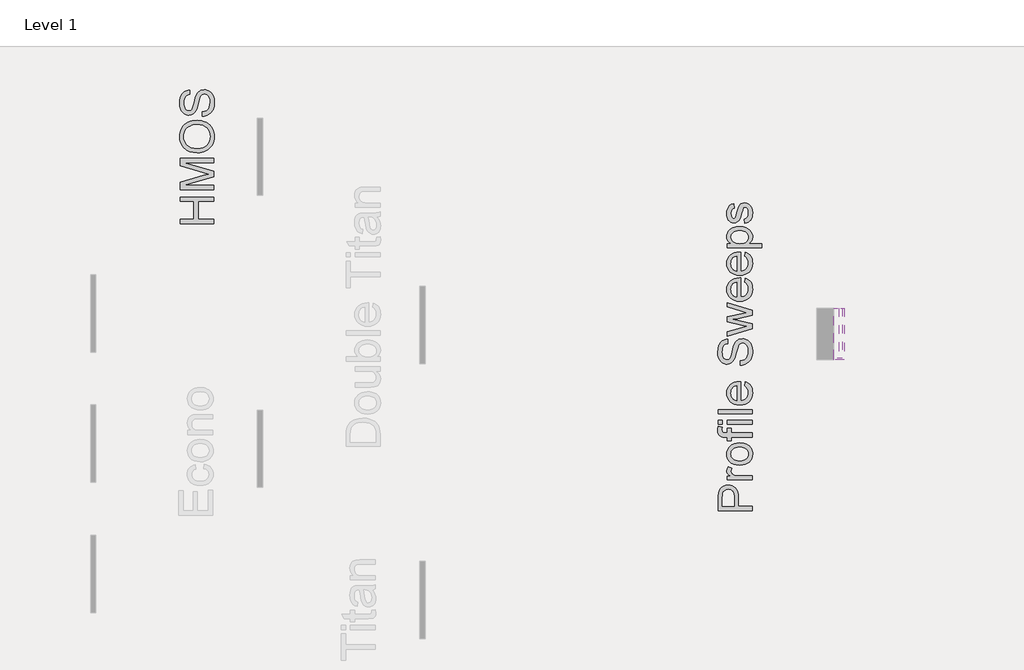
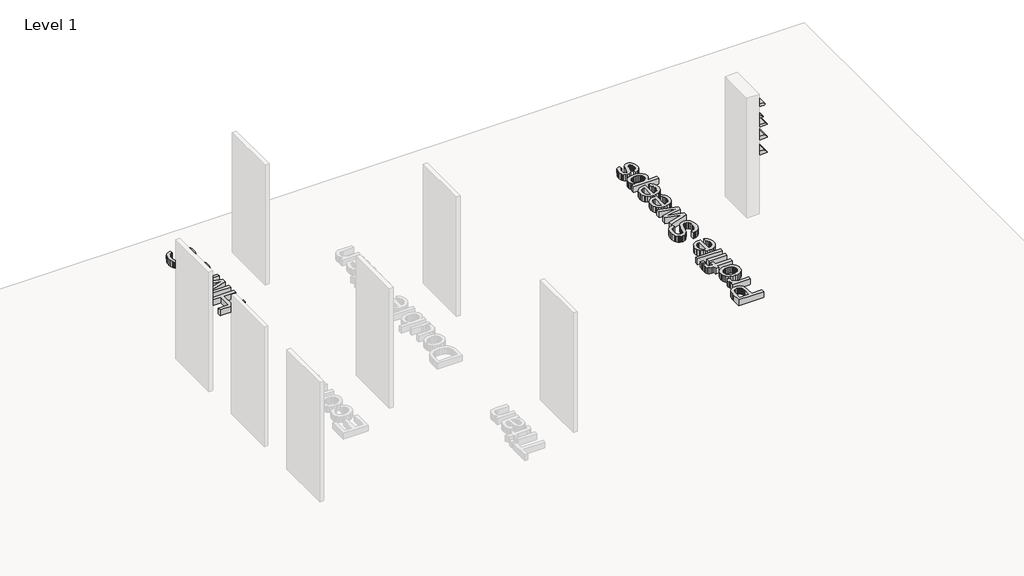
# One storey, part 6 of 6: 7 proxies.
"""IFC4 building model written with IfcOpenShell, lengths in millimetres."""

from ifc_helpers import new_model, si_unit, point, frame, frame_2d, origin, origin_with_axes, place, context, project, spatial, polyline, circle_curve, trimmed, segment, composite_curve, outline, extrude, element, save

model = new_model("IFC4")

# Units and contexts
model_context = context("Model", 3, world=origin())
ifc_project = project(units=[si_unit("LENGTHUNIT", "METRE", prefix="MILLI")], contexts=[model_context])

# Site, building, storey
site = spatial("IfcSite", under=ifc_project)
building = spatial("IfcBuilding", under=site)
storey = spatial("IfcBuildingStorey", under=building, Name="Level 1", Elevation=0.0)

# Proxies
placement = place(None, origin())
element("IfcBuildingElementProxy", 1, Name="Wall_Sweep_Sloped-Sill-Unit_SL2_Glen-Gery", ObjectType="Wall_Sweep_Sloped-Sill-Unit_SL2_Glen-Gery", at=placement, inside=storey, context=model_context, shape_type="SweptSolid", body=[
    extrude(outline(composite_curve([segment(polyline([(2711.45, 17140.5180269), (2711.45, 17269.1055269)]), True, "CONTINUOUS"), segment(trimmed(circle_curve(frame_2d((2738.4374742, 17269.0682279)), 26.9875), [point((2711.45, 17269.1055269))], [point((2764.6582211, 17275.4555269))], False, "CARTESIAN"), True, "CONTINUOUS"), segment(polyline([(2764.6582211, 17275.4555269), (2794.0, 17140.5180269), (2711.45, 17140.5180269)]), True, "CONTINUOUS")], self_intersect=False)), frame((0.0, 7093.3741026, 0.0), z_axis=(0.0, 1.0, 0.0), x_axis=(0.0, 0.0, 1.0)), (0.0, 0.0, 1.0), 889.0),
])
element("IfcBuildingElementProxy", 2, Name="Wall_Sweep_Water-Table-Unit_W2-S_Glen-Gery", ObjectType="Wall_Sweep_Water-Table-Unit_W2-S_Glen-Gery", at=placement, inside=storey, context=model_context, shape_type="SweptSolid", body=[
    extrude(outline(composite_curve([segment(polyline([(2495.55, 17140.5180269), (2438.4, 17140.5180269), (2438.4, 17232.5930269), (2457.45, 17232.5930269)]), True, "CONTINUOUS"), segment(trimmed(circle_curve(frame_2d((2495.55, 17232.5930269)), 38.1), [point((2457.45, 17232.5930269))], [point((2495.55, 17194.4930269))], True, "CARTESIAN"), True, "CONTINUOUS"), segment(polyline([(2495.55, 17194.4930269), (2495.55, 17140.5180269)]), True, "CONTINUOUS")], self_intersect=False)), frame((0.0, 7067.9741026, 0.0), z_axis=(0.0, 1.0, 0.0), x_axis=(0.0, 0.0, 1.0)), (0.0, 0.0, 1.0), 914.4),
])
element("IfcBuildingElementProxy", 3, Name="Wall_Sweep_Water-Table-Unit_W3-H_Glen-Gery", ObjectType="Wall_Sweep_Water-Table-Unit_W3-H_Glen-Gery", at=placement, inside=storey, context=model_context, shape_type="SweptSolid", body=[
    extrude(outline(polyline([(2266.95, 17140.5180269), (2209.8, 17140.5180269), (2209.8, 17334.1930269), (2228.85, 17334.1930269), (2266.95, 17296.0930269), (2266.95, 17140.5180269)])), frame((0.0, 7067.9741026, 0.0), z_axis=(0.0, 1.0, 0.0), x_axis=(0.0, 0.0, 1.0)), (0.0, 0.0, 1.0), 914.4),
])
element("IfcBuildingElementProxy", 4, Name="Wall_Sweep_Water-Table-Unit_W9-R_Glen-Gery", ObjectType="Wall_Sweep_Water-Table-Unit_W9-R_Glen-Gery", at=placement, inside=storey, context=model_context, shape_type="SweptSolid", body=[
    extrude(outline(polyline([(1971.675, 17140.5180269), (1879.6, 17140.5180269), (1879.6, 17334.1930269), (1911.35, 17334.1930269), (1971.675, 17273.8680269), (1971.675, 17140.5180269)])), frame((0.0, 7067.9741026, 0.0), z_axis=(0.0, 1.0, 0.0), x_axis=(0.0, 0.0, 1.0)), (0.0, 0.0, 1.0), 914.4),
])
element("IfcBuildingElementProxy", 5, Name="Wall_Sweep_Water-Table-Unit_W12-R_Glen-Gery", ObjectType="Wall_Sweep_Water-Table-Unit_W12-R_Glen-Gery", at=placement, inside=storey, context=model_context, shape_type="SweptSolid", body=[
    extrude(outline(composite_curve([segment(polyline([(1590.675, 17140.5180269), (1498.6, 17140.5180269), (1498.6, 17334.1930269), (1517.65, 17334.1930269), (1517.65, 17321.4930269)]), True, "CONTINUOUS"), segment(trimmed(circle_curve(frame_2d((1514.4750682, 17264.4312857)), 57.15), [point((1517.65, 17321.4930269))], [point((1571.625, 17264.3430269))], False, "CARTESIAN"), True, "CONTINUOUS"), segment(polyline([(1571.625, 17264.3430269), (1590.675, 17264.3430269), (1590.675, 17140.5180269)]), True, "CONTINUOUS")], self_intersect=False)), frame((0.0, 7067.9741026, 0.0), z_axis=(0.0, 1.0, 0.0), x_axis=(0.0, 0.0, 1.0)), (0.0, 0.0, 1.0), 914.4),
])
element("IfcBuildingElementProxy", 6, Name="24\" Arial", ObjectType="24\" Arial", at=placement, inside=storey, context=model_context, shape_type="SweptSolid", body=[
    extrude(outline(polyline([(6152.1293022, 9483.265812), (5551.9077637, 9483.265812), (5551.9077637, 9558.2935043), (5795.7477637, 9558.2935043), (5795.7477637, 9877.1611966), (5551.9077637, 9877.1611966), (5551.9077637, 9952.1888889), (6152.1293022, 9952.1888889), (6152.1293022, 9877.1611966), (5870.775456, 9877.1611966), (5870.775456, 9558.2935043), (6152.1293022, 9558.2935043), (6152.1293022, 9483.265812)])), origin_with_axes(), (0.0, 0.0, 1.0), 152.4),
    extrude(outline(polyline([(6152.1293022, 10083.4873504), (5551.9077637, 10083.4873504), (5551.9077637, 10212.587735), (5974.9643022, 10335.3869658), (6063.3269945, 10360.1519658), (5967.6373791, 10386.9685043), (5551.9077637, 10507.7161966), (5551.9077637, 10636.8165812), (6152.1293022, 10636.8165812), (6152.1293022, 10561.7888889), (5626.935456, 10561.7888889), (6152.1293022, 10411.000812), (6152.1293022, 10309.3031197), (5626.935456, 10158.5150427), (6152.1293022, 10158.5150427), (6152.1293022, 10083.4873504)])), origin_with_axes(), (0.0, 0.0, 1.0), 152.4),
    extrude(outline(polyline([(5859.9316099, 10739.9796581), (5789.5290378, 10744.9802831), (5727.2043984, 10759.9821581), (5672.9576916, 10784.9852831), (5648.863563, 10801.2373144), (5626.7889176, 10819.9896581), (5589.9253359, 10862.8979514), (5563.594206, 10911.6128312), (5547.7955282, 10966.1342975), (5542.5293022, 11026.4623504), (5545.0021387, 11066.8428552), (5552.4206484, 11105.1901389), (5564.784831, 11141.5042014), (5582.0946868, 11175.7850427), (5603.8281724, 11207.0710043), (5629.4632445, 11234.4004273), (5658.9999032, 11257.773312), (5692.4381484, 11277.1896581), (5729.0178118, 11292.4479754), (5767.9787253, 11303.3467735), (5809.3208887, 11309.8860523), (5853.0443022, 11312.065812), (5897.3447109, 11309.7715692), (5939.2455522, 11302.8888408), (5978.7468262, 11291.4176269), (6015.848533, 11275.3579273), (6049.5706964, 11255.0898264), (6078.9333407, 11230.9934081), (6103.9364657, 11203.0686725), (6124.5800714, 11171.3156197), (6140.7359368, 11136.9844057), (6152.2758407, 11101.325187), (6159.199783, 11064.3379634), (6161.5077637, 11026.022735), (6158.9570786, 10984.9370139), (6151.3050234, 10946.0860043), (6138.5515979, 10909.4697062), (6120.6968022, 10875.0881197), (6098.4321147, 10843.8387927), (6072.4490137, 10816.6192735), (6042.7474993, 10793.429562), (6009.3275714, 10774.2696581), (5973.5309729, 10759.2677831), (5936.6994464, 10748.5521581), (5898.8329921, 10742.1227831), (5859.9316099, 10739.9796581)]), holes=[polyline([(5860.6643022, 10815.0073504), (5910.4049512, 10818.7578192), (5954.5588214, 10830.0092254), (5993.1259128, 10848.7615692), (6026.1062253, 10875.0148504), (6052.519783, 10906.9281797), (6071.3866099, 10942.6606677), (6082.706706, 10982.2123144), (6086.4800714, 11025.5831197), (6082.6700714, 11069.6957759), (6071.2400714, 11109.7145139), (6052.1900714, 11145.6393336), (6025.5200714, 11177.470235), (5991.8437012, 11203.5311846), (5951.7745907, 11222.1461485), (5905.3127397, 11233.3151269), (5852.4581484, 11237.0381197), (5818.1223551, 11235.4445139), (5786.0395907, 11230.6636966), (5756.2098551, 11222.6956677), (5728.6331484, 11211.5404273), (5703.6712373, 11197.3216172), (5681.6858887, 11180.1628793), (5662.6771027, 11160.0642134), (5646.6448791, 11137.0256197), (5633.9189296, 11111.761473), (5624.8289657, 11084.9861485), (5619.3749873, 11056.6996461), (5617.5569945, 11026.9019658), (5621.0601796, 10985.0377591), (5631.5697349, 10946.1959081), (5649.0856604, 10910.3764129), (5673.607956, 10877.5792735), (5706.3180883, 10850.2040572), (5748.3975234, 10830.6503312), (5799.8462613, 10818.9180956), (5860.6643022, 10815.0073504)])]), origin_with_axes(), (0.0, 0.0, 1.0), 152.4),
    extrude(outline(polyline([(5945.8031484, 11387.0935043), (5945.8031484, 11462.1211966), (5987.4383887, 11470.7303312), (6020.9041099, 11486.3000427), (6047.464206, 11510.5887927), (6068.3825714, 11545.3550427), (6081.9556964, 11587.8511966), (6086.4800714, 11635.3296581), (6083.0547349, 11677.1297543), (6072.7787253, 11713.727735), (6056.512956, 11743.3834562), (6035.1183407, 11764.3567735), (6010.554831, 11776.83086), (5984.7823791, 11780.9888889), (5959.6693503, 11777.8749466), (5937.9633407, 11768.5331197), (5919.4445426, 11749.5563889), (5903.8931484, 11717.537735), (5875.2448791, 11608.293312), (5856.2864657, 11536.5810523), (5838.2439176, 11490.6961966), (5813.0026676, 11453.3472062), (5782.4127637, 11426.8786966), (5747.1336291, 11411.1074947), (5707.8246868, 11405.8504273), (5685.4821508, 11407.4760884), (5663.8814657, 11412.3530716), (5643.0226315, 11420.4813769), (5622.9056484, 11431.8610043), (5604.3502157, 11446.3637326), (5588.176033, 11463.8613408), (5574.3831003, 11484.3538288), (5562.9714176, 11507.8411966), (5547.639831, 11560.6316773), (5542.5293022, 11619.0638889), (5547.877956, 11682.3685043), (5563.9239176, 11737.7600427), (5575.8759609, 11761.9938408), (5590.3374753, 11783.260235), (5607.3084609, 11801.5592254), (5626.7889176, 11816.890812), (5648.2110089, 11829.1359322), (5671.0068984, 11838.1755235), (5695.1765859, 11844.009586), (5720.7200714, 11846.6381197), (5720.7200714, 11771.6104273), (5696.7793503, 11766.591485), (5675.9525714, 11757.835812), (5658.2397349, 11745.3434081), (5643.6408407, 11729.1142735), (5632.229158, 11708.8461725), (5624.077956, 11684.2368697), (5619.1872349, 11655.2863648), (5617.5569945, 11621.9946581), (5619.1689176, 11587.6405475), (5624.0046868, 11558.287062), (5632.0643022, 11533.9342014), (5643.3477637, 11514.5819658), (5656.9117301, 11499.8365331), (5671.8128599, 11489.3040812), (5688.0511532, 11482.98461), (5705.6266099, 11480.8781197), (5720.7475474, 11482.3709802), (5734.4580522, 11486.849562), (5746.7581243, 11494.3138648), (5757.6477637, 11504.7638889), (5767.960408, 11521.2128312), (5778.382956, 11547.1135043), (5799.5577637, 11627.2700427), (5819.6701676, 11709.9910043), (5837.2181484, 11760.0338889), (5864.4376676, 11802.8048023), (5880.4378359, 11819.3407519), (5898.0316099, 11832.6436966), (5917.1274032, 11842.8693336), (5937.6336291, 11850.17336), (5982.8773791, 11856.0165812), (6006.3464296, 11854.3359682), (6029.128581, 11849.2941293), (6051.2238335, 11840.8910644), (6072.6321868, 11829.1267735), (6092.524783, 11814.2073264), (6110.0727637, 11796.3387927), (6125.2761291, 11775.5211725), (6138.1348791, 11751.7544658), (6148.3605161, 11725.7301509), (6155.6645426, 11698.1397062), (6161.5077637, 11638.2604273), (6159.9324753, 11599.8810884), (6155.2066099, 11564.7530716), (6147.3301676, 11532.8763769), (6136.3031484, 11504.2510043), (6122.1072349, 11478.7029394), (6104.7241099, 11456.0581677), (6084.1537734, 11436.3166894), (6060.3962253, 11419.4785043), (6034.2207926, 11405.9145379), (6006.3968022, 11395.9957158), (5976.9242541, 11389.7220379), (5945.8031484, 11387.0935043)])), origin_with_axes(), (0.0, 0.0, 1.0), 152.4),
])
element("IfcBuildingElementProxy", 7, Name="24\" Arial", ObjectType="24\" Arial", at=placement, inside=storey, context=model_context, shape_type="SweptSolid", body=[
    extrude(outline(polyline([(15695.9291622, 4391.5727632), (15095.7076237, 4391.5727632), (15095.7076237, 4614.0181479), (15097.1363737, 4665.819494), (15101.4226237, 4703.6996863), (15112.1016141, 4743.686369), (15129.4847391, 4776.6025709), (15154.359643, 4803.1077152), (15187.5139699, 4823.8612248), (15226.6214218, 4837.269494), (15269.3557007, 4841.7389171), (15306.2009651, 4838.7211406), (15340.097143, 4829.6678113), (15371.0442343, 4814.5789291), (15399.0422391, 4793.454494), (15422.250268, 4764.4536166), (15438.8274314, 4725.7354075), (15448.7737295, 4677.2998666), (15452.0891622, 4619.146994), (15452.0891622, 4466.6004555), (15695.9291622, 4466.6004555), (15695.9291622, 4391.5727632)]), holes=[polyline([(15377.0614699, 4466.6004555), (15377.0614699, 4623.5431479), (15375.339643, 4659.628244), (15370.1741622, 4690.0716094), (15361.5650276, 4714.873244), (15349.5122391, 4734.0331479), (15334.3363497, 4748.3298065), (15316.3579122, 4758.5417055), (15295.5769266, 4764.668845), (15271.993393, 4766.7112248), (15238.2895468, 4761.8937729), (15209.8610853, 4747.4414171), (15188.4664699, 4725.1492536), (15175.8641622, 4696.8123786), (15172.0175276, 4667.8710325), (15170.735316, 4621.7846863), (15170.735316, 4466.6004555), (15377.0614699, 4466.6004555)])]), origin_with_axes(), (0.0, 0.0, 1.0), 152.4),
    extrude(outline(polyline([(15695.9291622, 4935.5235325), (15255.1414699, 4935.5235325), (15255.1414699, 5001.1727632), (15320.3510853, 5001.1727632), (15282.5441622, 5025.4248786), (15260.270316, 5047.771994), (15249.3898353, 5070.1923786), (15245.7630084, 5094.6643017), (15251.5512776, 5132.0316094), (15268.9160853, 5169.9850709), (15336.1772391, 5144.926994), (15324.6373353, 5118.5500709), (15320.7907007, 5092.1731479), (15324.4907968, 5069.7710805), (15335.5910853, 5049.7502632), (15353.2489699, 5033.5760805), (15376.6218545, 5022.7139171), (15418.5318545, 5013.5918979), (15464.2518545, 5010.5512248), (15695.9291622, 5010.5512248), (15695.9291622, 4935.5235325)])), origin_with_axes(), (0.0, 0.0, 1.0), 152.4),
    extrude(outline(polyline([(15475.535316, 5198.1204555), (15418.4494266, 5202.1777392), (15369.2582968, 5214.3495902), (15327.9619266, 5234.6360084), (15294.560316, 5263.036994), (15273.2114939, 5291.6303113), (15257.9623353, 5323.1910325), (15248.8128401, 5357.7191575), (15245.7630084, 5395.2146863), (15249.4768425, 5436.6072224), (15260.6183449, 5474.0340613), (15279.1875156, 5507.4952031), (15305.1843545, 5536.9906479), (15337.7296309, 5561.0641695), (15375.9441141, 5578.2595421), (15419.827804, 5588.5767656), (15469.3807007, 5592.0158402), (15509.5413978, 5590.4955036), (15545.1777199, 5585.934494), (15576.289667, 5578.3328113), (15602.8772391, 5567.6904555), (15625.8425636, 5554.1402272), (15646.087768, 5537.8149267), (15663.6128521, 5518.7145541), (15678.417816, 5496.8391094), (15690.1821069, 5473.0403474), (15698.5851718, 5448.1700229), (15703.6270108, 5422.2281358), (15705.3076237, 5395.2146863), (15701.6075276, 5353.2176791), (15690.5072391, 5315.4428113), (15672.0067584, 5281.8900829), (15646.1060853, 5252.559494), (15613.2448353, 5228.7424147), (15573.8626237, 5211.7302152), (15527.9594507, 5201.5228954), (15475.535316, 5198.1204555)]), holes=[polyline([(15475.3887776, 5273.1481479), (15511.7806886, 5275.3187488), (15543.2910372, 5281.8305517), (15569.9198233, 5292.6835565), (15591.6670468, 5307.8777632), (15608.5601838, 5326.3599267), (15620.6267103, 5347.0768017), (15627.8666261, 5370.0283882), (15630.2799314, 5395.2146863), (15627.8528882, 5420.2727632), (15620.5717584, 5443.1327632), (15608.436542, 5463.7946863), (15591.4472391, 5482.2585325), (15569.4847872, 5497.4527392), (15542.4301237, 5508.305744), (15510.2832487, 5514.8175469), (15473.0441622, 5516.9881479), (15437.8062415, 5514.8038089), (15407.1201718, 5508.2507921), (15380.9859531, 5497.3290974), (15359.4035853, 5482.0387248), (15342.5104483, 5463.5061887), (15330.4439218, 5442.8580036), (15323.2040059, 5420.0941695), (15320.7907007, 5395.2146863), (15323.1948473, 5370.0283882), (15330.4072872, 5347.0768017), (15342.4280204, 5326.3599267), (15359.2570468, 5307.8777632), (15380.9401598, 5292.6835565), (15407.5231526, 5281.8305517), (15439.0060252, 5275.3187488), (15475.3887776, 5273.1481479)])]), origin_with_axes(), (0.0, 0.0, 1.0), 152.4),
    extrude(outline(polyline([(15695.9291622, 5695.1789171), (15330.1691622, 5695.1789171), (15330.1691622, 5629.5296863), (15255.1414699, 5629.5296863), (15255.1414699, 5695.1789171), (15210.740316, 5695.1789171), (15173.9957968, 5697.1571863), (15148.168393, 5703.091994), (15123.2202199, 5718.1854555), (15103.4741622, 5741.4850709), (15090.6154122, 5774.0898786), (15086.3291622, 5817.0989171), (15088.3807007, 5849.6670902), (15094.535316, 5885.5323786), (15164.8737776, 5874.541994), (15161.3568545, 5831.3131479), (15164.4707968, 5802.7930998), (15173.8126237, 5784.054494), (15191.6536814, 5773.6685805), (15220.265316, 5770.2066094), (15255.1414699, 5770.2066094), (15255.1414699, 5854.6127632), (15330.1691622, 5854.6127632), (15330.1691622, 5770.2066094), (15695.9291622, 5770.2066094), (15695.9291622, 5695.1789171)])), origin_with_axes(), (0.0, 0.0, 1.0), 152.4),
    extrude(outline(polyline([(15170.735316, 5920.261994), (15095.7076237, 5920.261994), (15095.7076237, 5995.2896863), (15170.735316, 5995.2896863), (15170.735316, 5920.261994)])), origin_with_axes(), (0.0, 0.0, 1.0), 152.4),
    extrude(outline(polyline([(15695.9291622, 5920.261994), (15255.1414699, 5920.261994), (15255.1414699, 5995.2896863), (15695.9291622, 5995.2896863), (15695.9291622, 5920.261994)])), origin_with_axes(), (0.0, 0.0, 1.0), 152.4),
    extrude(outline(polyline([(15695.9291622, 6107.8312248), (15095.7076237, 6107.8312248), (15095.7076237, 6182.8589171), (15695.9291622, 6182.8589171), (15695.9291622, 6107.8312248)])), origin_with_axes(), (0.0, 0.0, 1.0), 152.4),
    extrude(outline(polyline([(15564.6307007, 6604.0104555), (15574.0091622, 6677.5727632), (15603.4725516, 6666.293881), (15629.4373353, 6651.067619), (15651.9035132, 6631.8939772), (15670.8710853, 6608.7729555), (15685.9370709, 6581.9426791), (15696.6984891, 6551.6412729), (15703.1553401, 6517.8687368), (15705.3076237, 6480.6250709), (15701.5937896, 6434.0716334), (15690.4522872, 6392.5920902), (15671.8831165, 6356.1864411), (15645.8862776, 6324.8546863), (15613.185304, 6299.6592296), (15574.5037295, 6281.6624748), (15529.841554, 6270.8644219), (15479.1987776, 6267.2650709), (15426.8387535, 6270.9010565), (15380.6882968, 6281.8090132), (15340.7474074, 6299.9889411), (15307.0160853, 6325.4408402), (15280.2178641, 6356.6901671), (15261.0762776, 6392.2623786), (15249.5913257, 6432.1574748), (15245.7630084, 6476.3754555), (15249.582167, 6519.1692656), (15261.039643, 6557.8691575), (15280.1354362, 6592.475131), (15306.8695468, 6622.9871863), (15340.5275997, 6647.8941454), (15380.3952199, 6665.6848305), (15426.4724074, 6676.3592416), (15478.7591622, 6679.9173786), (15498.9814699, 6679.4777632), (15498.9814699, 6342.2927632), (15528.9211093, 6346.6385445), (15555.1423353, 6355.2797344), (15577.6451478, 6368.2163329), (15596.4295468, 6385.4483402), (15611.2390901, 6406.023256), (15621.8173353, 6428.9885805), (15628.1642824, 6454.3443137), (15630.2799314, 6482.0904555), (15626.3600276, 6522.0221863), (15614.600316, 6555.6527632), (15594.2681045, 6582.9821863), (15564.6307007, 6604.0104555)]), holes=[polyline([(15423.9537776, 6342.2927632), (15423.9537776, 6604.8896863), (15384.3151237, 6594.7418979), (15368.7270949, 6586.0137007), (15355.9599314, 6574.8493017), (15340.573393, 6554.388869), (15329.5830084, 6531.1075709), (15322.9887776, 6505.0054075), (15320.7907007, 6476.0823786), (15322.5445829, 6449.7008762), (15327.8062295, 6425.5082921), (15336.5756406, 6403.5046262), (15348.852816, 6383.6898786), (15364.0699194, 6367.0623426), (15381.6591141, 6354.6203113), (15401.6204002, 6346.3637849), (15423.9537776, 6342.2927632)])]), origin_with_axes(), (0.0, 0.0, 1.0), 152.4),
    extrude(outline(polyline([(15489.6030084, 6970.6496863), (15489.6030084, 7045.6773786), (15531.2382487, 7054.2865132), (15564.7039699, 7069.8562248), (15591.264066, 7094.1449748), (15612.1824314, 7128.9112248), (15625.7555564, 7171.4073786), (15630.2799314, 7218.8858402), (15626.8545949, 7260.6859363), (15616.5785853, 7297.2839171), (15600.312816, 7326.9396382), (15578.9182007, 7347.9129555), (15554.354691, 7360.3870421), (15528.5822391, 7364.5450709), (15503.4692103, 7361.4311286), (15481.7632007, 7352.0893017), (15463.2444026, 7333.1125709), (15447.6930084, 7301.0939171), (15419.0447391, 7191.849494), (15400.0863257, 7120.1372344), (15382.0437776, 7074.2523786), (15356.8025276, 7036.9033882), (15326.2126237, 7010.4348786), (15290.9334891, 6994.6636767), (15251.6245468, 6989.4066094), (15229.2820108, 6991.0322704), (15207.6813257, 6995.9092536), (15186.8224915, 7004.0375589), (15166.7055084, 7015.4171863), (15148.1500757, 7029.9199147), (15131.975893, 7047.4175229), (15118.1829603, 7067.9100108), (15106.7712776, 7091.3973786), (15091.439691, 7144.1878594), (15086.3291622, 7202.6200709), (15091.677816, 7265.9246863), (15107.7237776, 7321.3162248), (15119.6758209, 7345.5500229), (15134.1373353, 7366.8164171), (15151.1083209, 7385.1154075), (15170.5887776, 7400.446994), (15192.0108689, 7412.6921142), (15214.8067584, 7421.7317055), (15238.9764459, 7427.565768), (15264.5199314, 7430.1943017), (15264.5199314, 7355.1666094), (15240.5792103, 7350.1476671), (15219.7524314, 7341.391994), (15202.0395949, 7328.8995902), (15187.4407007, 7312.6704555), (15176.029018, 7292.4023546), (15167.877816, 7267.7930517), (15162.9870949, 7238.8425469), (15161.3568545, 7205.5508402), (15162.9687776, 7171.1967296), (15167.8045468, 7141.843244), (15175.8641622, 7117.4903834), (15187.1476237, 7098.1381479), (15200.7115901, 7083.3927152), (15215.6127199, 7072.8602632), (15231.8510132, 7066.5407921), (15249.4264699, 7064.4343017), (15264.5474074, 7065.9271623), (15278.2579122, 7070.405744), (15290.5579843, 7077.8700469), (15301.4476237, 7088.3200709), (15311.760268, 7104.7690132), (15322.182816, 7130.6696863), (15343.3576237, 7210.8262248), (15363.4700276, 7293.5471863), (15381.0180084, 7343.5900709), (15408.2375276, 7386.3609844), (15424.2376959, 7402.8969339), (15441.8314699, 7416.1998786), (15460.9272632, 7426.4255156), (15481.4334891, 7433.7295421), (15526.6772391, 7439.5727632), (15550.1462896, 7437.8921503), (15572.928441, 7432.8503113), (15595.0236934, 7424.4472464), (15616.4320468, 7412.6829555), (15636.324643, 7397.7635084), (15653.8726237, 7379.8949748), (15669.0759891, 7359.0773546), (15681.9347391, 7335.3106479), (15692.1603761, 7309.2863329), (15699.4644026, 7281.6958882), (15705.3076237, 7221.8166094), (15703.7323353, 7183.4372704), (15699.0064699, 7148.3092536), (15691.1300276, 7116.4325589), (15680.1030084, 7087.8071863), (15665.9070949, 7062.2591214), (15648.5239699, 7039.6143498), (15627.9536334, 7019.8728714), (15604.1960853, 7003.0346863), (15578.0206526, 6989.47072), (15550.1966622, 6979.5518979), (15520.7241141, 6973.27822), (15489.6030084, 6970.6496863)])), origin_with_axes(), (0.0, 0.0, 1.0), 152.4),
    extrude(outline(polyline([(15695.9291622, 7615.8585325), (15255.1414699, 7481.7758402), (15255.1414699, 7559.7343017), (15512.3164699, 7635.7877632), (15604.1960853, 7658.5012248), (15515.6868545, 7677.1116094), (15255.1414699, 7737.631994), (15255.1414699, 7827.0204555), (15514.9541622, 7887.2477632), (15595.1107007, 7903.8066094), (15510.5580084, 7927.5458402), (15255.1414699, 8003.7458402), (15255.1414699, 8081.9973786), (15695.9291622, 7946.8889171), (15695.9291622, 7856.1816094), (15437.435316, 7798.591994), (15356.8391622, 7781.8866094), (15695.9291622, 7707.5916094), (15695.9291622, 7615.8585325)])), origin_with_axes(), (0.0, 0.0, 1.0), 152.4),
    extrude(outline(polyline([(15564.6307007, 8442.1889171), (15574.0091622, 8515.7512248), (15603.4725516, 8504.4723426), (15629.4373353, 8489.2460805), (15651.9035132, 8470.0724387), (15670.8710853, 8446.9514171), (15685.9370709, 8420.1211406), (15696.6984891, 8389.8197344), (15703.1553401, 8356.0471983), (15705.3076237, 8318.8035325), (15701.5937896, 8272.250095), (15690.4522872, 8230.7705517), (15671.8831165, 8194.3649027), (15645.8862776, 8163.0331479), (15613.185304, 8137.8376911), (15574.5037295, 8119.8409363), (15529.841554, 8109.0428834), (15479.1987776, 8105.4435325), (15426.8387535, 8109.079518), (15380.6882968, 8119.9874748), (15340.7474074, 8138.1674027), (15307.0160853, 8163.6193017), (15280.2178641, 8194.8686286), (15261.0762776, 8230.4408402), (15249.5913257, 8270.3359363), (15245.7630084, 8314.5539171), (15249.582167, 8357.3477272), (15261.039643, 8396.047619), (15280.1354362, 8430.6535926), (15306.8695468, 8461.1656479), (15340.5275997, 8486.072607), (15380.3952199, 8503.8632921), (15426.4724074, 8514.5377031), (15478.7591622, 8518.0958402), (15498.9814699, 8517.6562248), (15498.9814699, 8180.4712248), (15528.9211093, 8184.817006), (15555.1423353, 8193.4581959), (15577.6451478, 8206.3947945), (15596.4295468, 8223.6268017), (15611.2390901, 8244.2017176), (15621.8173353, 8267.1670421), (15628.1642824, 8292.5227753), (15630.2799314, 8320.2689171), (15626.3600276, 8360.2006479), (15614.600316, 8393.8312248), (15594.2681045, 8421.1606479), (15564.6307007, 8442.1889171)]), holes=[polyline([(15423.9537776, 8180.4712248), (15423.9537776, 8443.0681479), (15384.3151237, 8432.9203594), (15368.7270949, 8424.1921623), (15355.9599314, 8413.0277632), (15340.573393, 8392.5673305), (15329.5830084, 8369.2860325), (15322.9887776, 8343.183869), (15320.7907007, 8314.2608402), (15322.5445829, 8287.8793378), (15327.8062295, 8263.6867536), (15336.5756406, 8241.6830878), (15348.852816, 8221.8683402), (15364.0699194, 8205.2408041), (15381.6591141, 8192.7987729), (15401.6204002, 8184.5422464), (15423.9537776, 8180.4712248)])]), origin_with_axes(), (0.0, 0.0, 1.0), 152.4),
    extrude(outline(polyline([(15564.6307007, 8901.7335325), (15574.0091622, 8975.2958402), (15603.4725516, 8964.0169579), (15629.4373353, 8948.7906959), (15651.9035132, 8929.6170541), (15670.8710853, 8906.4960325), (15685.9370709, 8879.665756), (15696.6984891, 8849.3643498), (15703.1553401, 8815.5918137), (15705.3076237, 8778.3481479), (15701.5937896, 8731.7947104), (15690.4522872, 8690.3151671), (15671.8831165, 8653.909518), (15645.8862776, 8622.5777632), (15613.185304, 8597.3823065), (15574.5037295, 8579.3855517), (15529.841554, 8568.5874988), (15479.1987776, 8564.9881479), (15426.8387535, 8568.6241334), (15380.6882968, 8579.5320902), (15340.7474074, 8597.712018), (15307.0160853, 8623.1639171), (15280.2178641, 8654.413244), (15261.0762776, 8689.9854555), (15249.5913257, 8729.8805517), (15245.7630084, 8774.0985325), (15249.582167, 8816.8923426), (15261.039643, 8855.5922344), (15280.1354362, 8890.1982079), (15306.8695468, 8920.7102632), (15340.5275997, 8945.6172224), (15380.3952199, 8963.4079075), (15426.4724074, 8974.0823185), (15478.7591622, 8977.6404555), (15498.9814699, 8977.2008402), (15498.9814699, 8640.0158402), (15528.9211093, 8644.3616214), (15555.1423353, 8653.0028113), (15577.6451478, 8665.9394099), (15596.4295468, 8683.1714171), (15611.2390901, 8703.7463329), (15621.8173353, 8726.7116575), (15628.1642824, 8752.0673906), (15630.2799314, 8779.8135325), (15626.3600276, 8819.7452632), (15614.600316, 8853.3758402), (15594.2681045, 8880.7052632), (15564.6307007, 8901.7335325)]), holes=[polyline([(15423.9537776, 8640.0158402), (15423.9537776, 8902.6127632), (15384.3151237, 8892.4649748), (15368.7270949, 8883.7367777), (15355.9599314, 8872.5723786), (15340.573393, 8852.1119459), (15329.5830084, 8828.8306479), (15322.9887776, 8802.7284844), (15320.7907007, 8773.8054555), (15322.5445829, 8747.4239531), (15327.8062295, 8723.231369), (15336.5756406, 8701.2277031), (15348.852816, 8681.4129555), (15364.0699194, 8664.7854195), (15381.6591141, 8652.3433882), (15401.6204002, 8644.0868618), (15423.9537776, 8640.0158402)])]), origin_with_axes(), (0.0, 0.0, 1.0), 152.4),
    extrude(outline(polyline([(15864.7414699, 9052.6681479), (15255.1414699, 9052.6681479), (15255.1414699, 9127.6958402), (15328.7037776, 9127.6958402), (15292.417191, 9152.1677632), (15266.4982007, 9179.5704555), (15250.9468064, 9211.5158402), (15245.7630084, 9249.6158402), (15247.5764218, 9275.7821142), (15253.0166622, 9300.3547825), (15262.0837295, 9323.333845), (15274.7776237, 9344.7193017), (15290.7686334, 9364.0440613), (15309.7270468, 9380.8410325), (15331.6528641, 9395.1102152), (15356.5460853, 9406.8516094), (15411.8277199, 9422.5678594), (15472.1649314, 9427.8066094), (15536.3304603, 9421.890119), (15565.8716983, 9414.494506), (15593.7185853, 9404.1406479), (15619.1430084, 9390.9705036), (15641.4168545, 9375.1260325), (15660.5401237, 9356.6072344), (15676.512816, 9335.4141094), (15689.1105444, 9312.5861647), (15698.1089218, 9289.1629075), (15703.5079483, 9265.1443378), (15705.3076237, 9240.5304555), (15700.4901718, 9206.0389652), (15686.037816, 9175.2475709), (15664.2219026, 9148.8889652), (15637.3137776, 9127.6958402), (15864.7414699, 9127.6958402), (15864.7414699, 9052.6681479)]), holes=[polyline([(15479.0522391, 9127.6958402), (15515.2106045, 9129.724482), (15546.313393, 9135.8104075), (15572.3606045, 9145.9536166), (15593.3522391, 9160.1541094), (15609.5081045, 9177.2487368), (15621.0480084, 9196.0743498), (15627.9719507, 9216.6309483), (15630.2799314, 9238.9185325), (15627.8895228, 9261.5266695), (15620.7182968, 9282.4587729), (15608.7662535, 9301.7148426), (15592.033393, 9319.2948786), (15570.2815901, 9333.9441454), (15543.2727199, 9344.4079075), (15511.0067824, 9350.6861647), (15473.4837776, 9352.7789171), (15437.6368064, 9350.7365373), (15406.5889699, 9344.6093979), (15380.340268, 9334.3974988), (15358.8907007, 9320.1008402), (15342.2219507, 9302.9649988), (15330.3157007, 9284.2355517), (15323.1719507, 9263.9124988), (15320.7907007, 9241.9958402), (15323.3230684, 9220.1478714), (15330.9201718, 9199.5912729), (15343.5820108, 9180.3260445), (15361.3085853, 9162.3521863), (15383.8617704, 9147.1900349), (15411.003441, 9136.3599267), (15442.7335973, 9129.8618618), (15479.0522391, 9127.6958402)])]), origin_with_axes(), (0.0, 0.0, 1.0), 152.4),
    extrude(outline(polyline([(15564.6307007, 9484.0773786), (15555.2522391, 9559.1050709), (15572.3606045, 9563.6386046), (15587.3441622, 9570.9380517), (15600.2029122, 9581.0034123), (15610.9368545, 9593.8346863), (15619.3994507, 9609.4685084), (15625.4441622, 9627.9415132), (15630.2799314, 9673.4050709), (15625.847143, 9718.3191094), (15620.3061574, 9735.7755036), (15612.5487776, 9749.8981479), (15593.2789699, 9768.5818017), (15582.4900757, 9773.2527152), (15570.9318545, 9774.8096863), (15560.8023834, 9773.2435565), (15551.8085853, 9768.5451671), (15537.2280084, 9749.7516094), (15527.7030084, 9721.6528594), (15515.833393, 9672.5258402), (15496.0323834, 9604.055744), (15479.1255084, 9559.5446863), (15460.6799795, 9530.951369), (15436.2630084, 9510.234494), (15407.431566, 9497.6505036), (15375.7426237, 9493.4558402), (15346.6730564, 9496.8262248), (15319.8382007, 9506.9373786), (15296.3004603, 9522.8734363), (15277.1222391, 9543.7185325), (15265.0511334, 9564.4354075), (15254.9216622, 9591.4168017), (15248.0526718, 9622.6111767), (15245.7630084, 9655.966994), (15249.4447872, 9704.8009363), (15260.4901237, 9747.2604555), (15277.8182968, 9781.4039171), (15300.3485853, 9805.2896863), (15329.7478641, 9821.1158402), (15367.6830084, 9831.0804555), (15377.0614699, 9756.0527632), (15353.4504603, 9746.5827152), (15335.6643545, 9727.8441094), (15324.5091141, 9699.6537729), (15320.7907007, 9661.8285325), (15324.3442584, 9618.7462248), (15335.0049314, 9590.0246863), (15350.3914699, 9573.8688209), (15368.1226237, 9568.4835325), (15379.6625276, 9570.718244), (15389.9568545, 9577.4223786), (15399.152143, 9588.8890132), (15406.5157007, 9605.4112248), (15422.488393, 9670.0346863), (15457.8041622, 9780.1583402), (15474.6927199, 9809.2462248), (15497.8091622, 9831.3002632), (15527.2267584, 9845.2030998), (15563.0187776, 9849.8373786), (15600.0197391, 9844.3971382), (15634.8226237, 9828.0764171), (15664.6981526, 9801.4980036), (15686.9170468, 9765.2846863), (15700.7099795, 9721.5429555), (15705.3076237, 9672.3793017), (15703.0912295, 9631.9987969), (15696.4420468, 9596.7288209), (15685.3600757, 9566.5693738), (15669.845316, 9541.5204555), (15649.9710372, 9521.0600229), (15625.8105084, 9504.6660325), (15597.3637295, 9492.3384844), (15564.6307007, 9484.0773786)])), origin_with_axes(), (0.0, 0.0, 1.0), 152.4),
])

save(model, "model.ifc")
